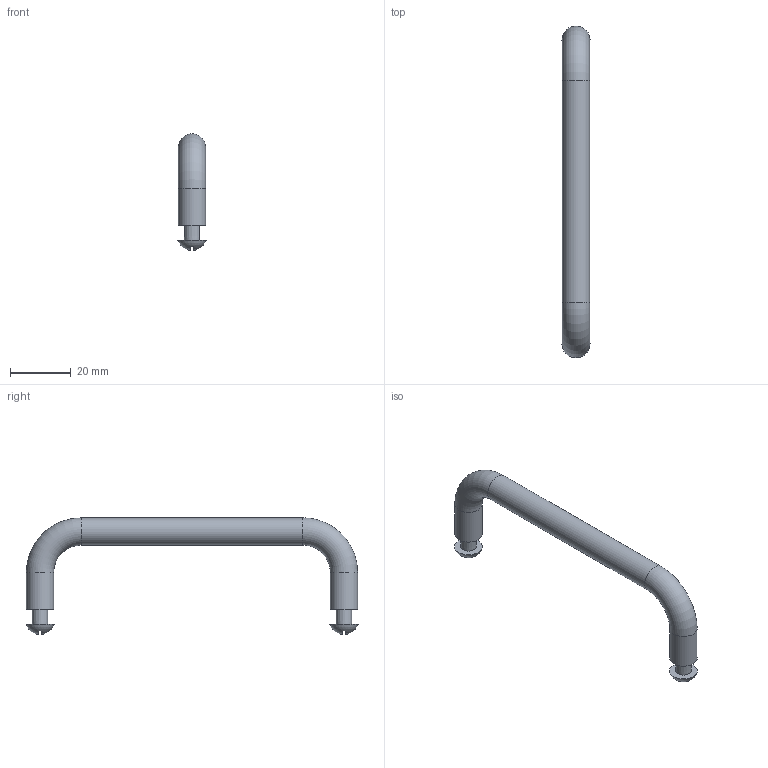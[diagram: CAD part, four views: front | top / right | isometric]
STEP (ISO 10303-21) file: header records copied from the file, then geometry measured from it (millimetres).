
FILE_DESCRIPTION(('STEP AP214'),'1');
FILE_NAME('HAB2A.stp','2021-12-27T08:52:59',(' '),(' '),'Spatial InterOp 3D',' ',' ');
FILE_SCHEMA(('AUTOMOTIVE_DESIGN { 1 0 10303 214 1 1 1 1 }'));
Length unit declared in the file: millimetre
Products named in the file (4): HAB2A; ねじ: 丸頭 - M5.0 x 8.0
Assembly tree (3 placements, depth 2):
  HAB2A
    HAB2A
    ねじ: 丸頭 - M5.0 x 8.0
    ねじ: 丸頭 - M5.0 x 8.0
Bounding box: 9.22 x 109.22 x 38.25 mm (x, y, z)
Volume: 9069.3 mm3; surface area: 5015.4 mm2
Topology: 3 solids, 3 shells, 85 faces, 205 edges, 130 vertices
Faces by surface type: plane 66, cylinder 13, torus 2, sphere 2, cone 2
Full cylindrical faces by diameter (mm): 5 x2, 9 x3
Entity records: 3195 total; most frequent: CARTESIAN_POINT 481, DIRECTION 410, ORIENTED_EDGE 384, EDGE_CURVE 192, AXIS2_PLACEMENT_3D 137, LINE 136, VECTOR 136, VERTEX_POINT 128
